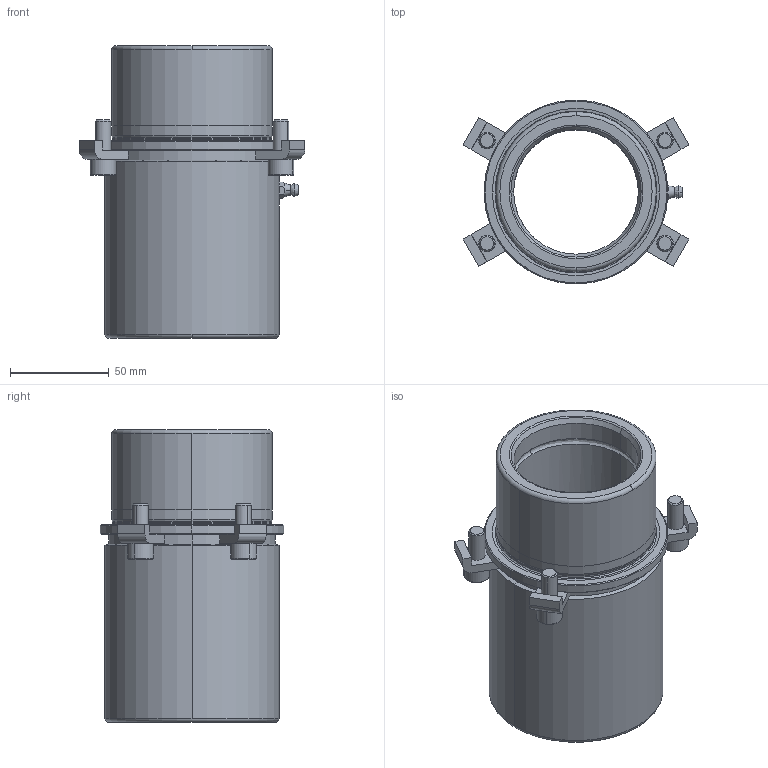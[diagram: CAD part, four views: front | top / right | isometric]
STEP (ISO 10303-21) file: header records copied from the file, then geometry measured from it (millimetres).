
FILE_DESCRIPTION((''),'2;1');
FILE_NAME('B10_063_100.stp','2008-11-06T09:16:53',(''),(''),'Mechanical Desktop 2009','Mechanical Desktop 2009',', , ');
FILE_SCHEMA(('CONFIG_CONTROL_DESIGN'));
Length unit declared in the file: millimetre
Products named in the file (2): Product; blmdl1
Assembly tree (1 placements, depth 2):
  Product
    blmdl1
Bounding box: 114.12 x 93 x 148 mm (x, y, z)
Volume: 404972.8 mm3; surface area: 86359 mm2
Topology: 10 solids, 10 shells, 202 faces, 505 edges, 332 vertices
Faces by surface type: plane 82, cylinder 60, cone 24, bspline 18, torus 18
Entity records: 7382 total; most frequent: CARTESIAN_POINT 2304, DIRECTION 1111, ORIENTED_EDGE 1002, EDGE_CURVE 501, AXIS2_PLACEMENT_3D 441, VERTEX_POINT 330, CIRCLE 255, VECTOR 229
